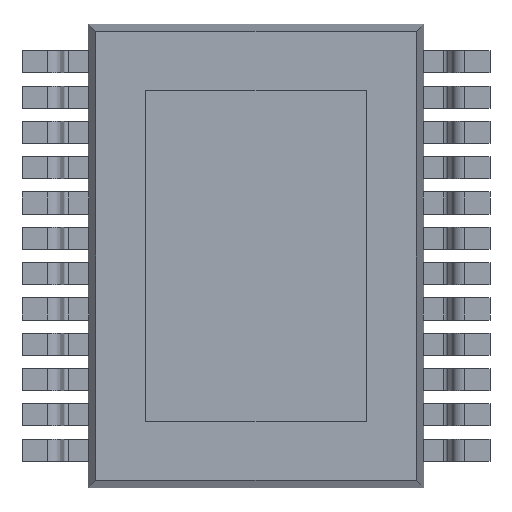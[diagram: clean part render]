
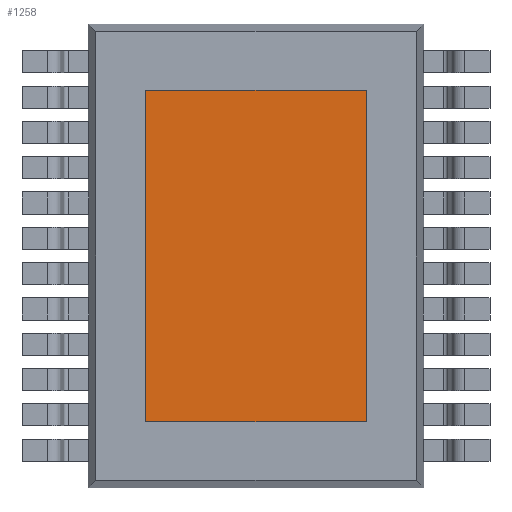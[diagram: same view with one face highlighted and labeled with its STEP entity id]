
A CAD part, front view. The second image highlights one B-rep face of the part: STEP entity #1258.
In plain terms, the highlighted planar face has unit normal (0, -1, 0).
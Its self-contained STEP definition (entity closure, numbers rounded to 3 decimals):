
#846 = EDGE_CURVE ( 'NONE', #5742, #5741, #7416, .T. ) ;
#849 = EDGE_CURVE ( 'NONE', #5741, #5697, #7403, .T. ) ;
#851 = EDGE_CURVE ( 'NONE', #5697, #5735, #7401, .T. ) ;
#852 = EDGE_CURVE ( 'NONE', #5735, #5742, #7395, .T. ) ;
#1258 = ADVANCED_FACE ( 'NONE', ( #7100 ), #9134, .F. ) ;
#1272 = AXIS2_PLACEMENT_3D ( 'NONE', #9125, #9123, #9122 ) ;
#2438 = DIRECTION ( 'NONE',  ( 1., 0., 0. ) ) ;
#2440 = CARTESIAN_POINT ( 'NONE',  ( -2.5, 0., -3.75 ) ) ;
#2441 = DIRECTION ( 'NONE',  ( 0., 0., -1. ) ) ;
#2446 = DIRECTION ( 'NONE',  ( -1., 0., 0. ) ) ;
#2449 = CARTESIAN_POINT ( 'NONE',  ( -2.5, 0., 3.75 ) ) ;
#2452 = CARTESIAN_POINT ( 'NONE',  ( -2.5, 0., 3.75 ) ) ;
#2453 = DIRECTION ( 'NONE',  ( 0., 0., 1. ) ) ;
#2460 = CARTESIAN_POINT ( 'NONE',  ( 2.5, 0., 3.75 ) ) ;
#5697 = VERTEX_POINT ( 'NONE', #6442 ) ;
#5709 = ORIENTED_EDGE ( 'NONE', *, *, #849, .T. ) ;
#5710 = ORIENTED_EDGE ( 'NONE', *, *, #851, .T. ) ;
#5711 = ORIENTED_EDGE ( 'NONE', *, *, #852, .T. ) ;
#5735 = VERTEX_POINT ( 'NONE', #6450 ) ;
#5741 = VERTEX_POINT ( 'NONE', #6444 ) ;
#5742 = VERTEX_POINT ( 'NONE', #6453 ) ;
#5809 = ORIENTED_EDGE ( 'NONE', *, *, #846, .T. ) ;
#6442 = CARTESIAN_POINT ( 'NONE',  ( -2.5, 0., 3.75 ) ) ;
#6444 = CARTESIAN_POINT ( 'NONE',  ( 2.5, 0., 3.75 ) ) ;
#6450 = CARTESIAN_POINT ( 'NONE',  ( -2.5, 0., -3.75 ) ) ;
#6453 = CARTESIAN_POINT ( 'NONE',  ( 2.5, 0., -3.75 ) ) ;
#7100 = FACE_OUTER_BOUND ( 'NONE', #13208, .T. ) ;
#7392 = VECTOR ( 'NONE', #2438, 1000. ) ;
#7394 = VECTOR ( 'NONE', #2441, 1000. ) ;
#7395 = LINE ( 'NONE', #2440, #7392 ) ;
#7398 = VECTOR ( 'NONE', #2446, 1000. ) ;
#7401 = LINE ( 'NONE', #2449, #7394 ) ;
#7403 = LINE ( 'NONE', #2452, #7398 ) ;
#7404 = VECTOR ( 'NONE', #2453, 1000. ) ;
#7416 = LINE ( 'NONE', #2460, #7404 ) ;
#9122 = DIRECTION ( 'NONE',  ( 0., 0., 1. ) ) ;
#9123 = DIRECTION ( 'NONE',  ( 0., 1., 0. ) ) ;
#9125 = CARTESIAN_POINT ( 'NONE',  ( 0., 0., 0. ) ) ;
#9134 = PLANE ( 'NONE',  #1272 ) ;
#13208 = EDGE_LOOP ( 'NONE', ( #5809, #5709, #5710, #5711 ) ) ;
